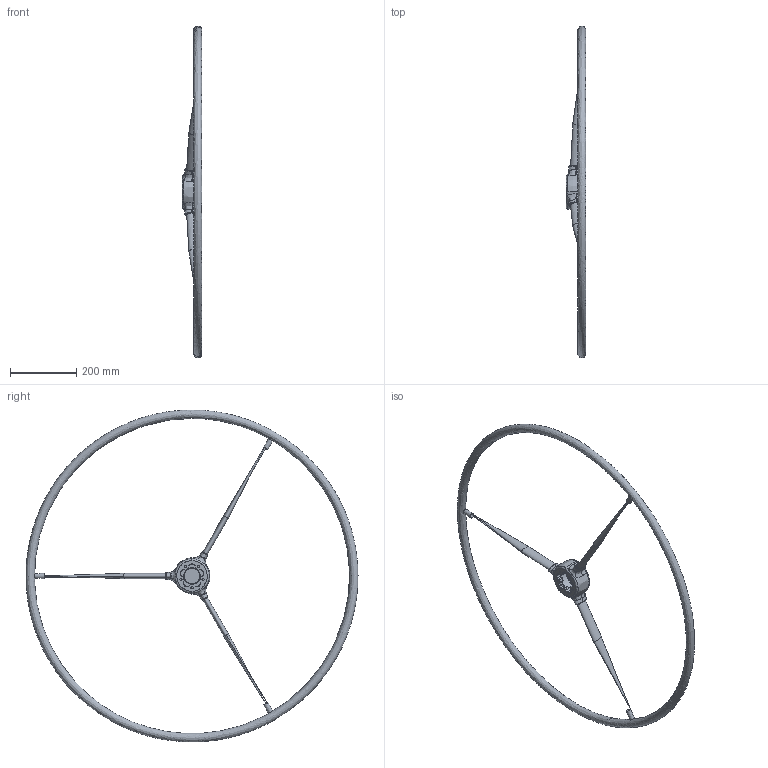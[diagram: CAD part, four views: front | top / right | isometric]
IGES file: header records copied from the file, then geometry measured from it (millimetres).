
Start section: Missler Software 3 rue Hermes, EUROPARC, 31520 Ramonville-Saint-Agne, France Tel   : +33 (0)5 61 00 03 00 Fax   : +33 (0)5 61 00 03 03 Email : sup.solid@topsolid.com
Global section: file name: Z:\J\Jp3\Barre à roue\Roue 3 rayons TITANE\Roue 3 rayons titane_1000.igs; native system: TopSolid v611200 Missler Software; preprocessor: IGES preprocessor v100000; author: Alex Rogeon; date: 120223.145447; units: millimetre
Bounding box: 60 x 1000 x 999.96 mm (x, y, z)
Surface area: 429752.2 mm2 (no closed solid volume)
Topology: 0 solids, 0 shells, 152 faces, 1915 edges, 1851 vertices
Faces by surface type: bspline 152
